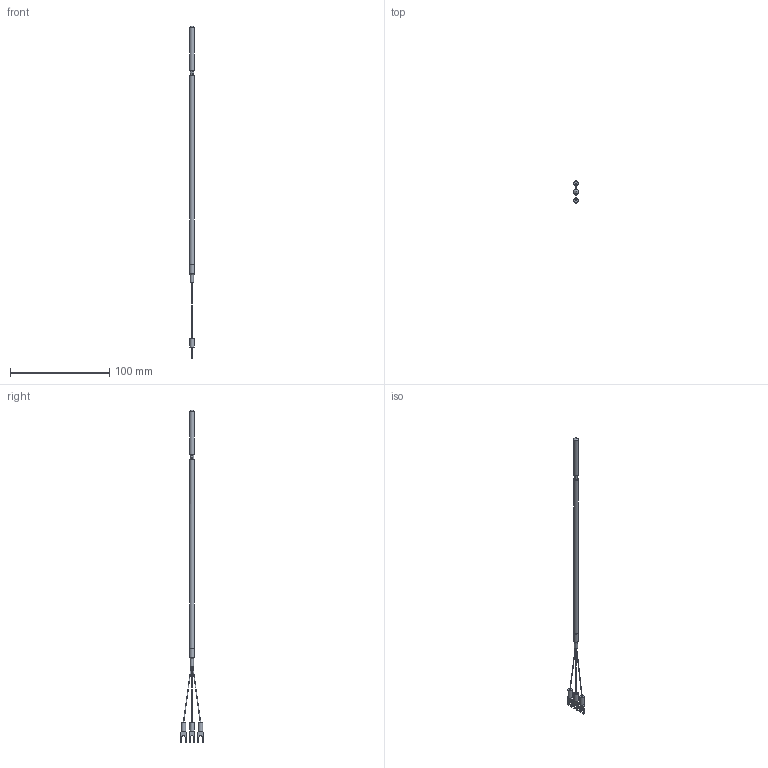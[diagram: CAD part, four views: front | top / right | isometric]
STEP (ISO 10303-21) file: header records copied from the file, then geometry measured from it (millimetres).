
FILE_DESCRIPTION (( 'STEP AP203' ), '1' );
FILE_NAME ('YIR102-2(1).STEP', '2024-08-29T01:01:23', ( '' ), ( '' ), 'SwSTEP 2.0', 'SolidWorks 2021', '' );
FILE_SCHEMA (( 'CONFIG_CONTROL_DESIGN' ));
Length unit declared in the file: millimetre
Products named in the file (1): YIR102-2(1)
Bounding box: 5 x 22.96 x 334.72 mm (x, y, z)
Volume: 5176.2 mm3; surface area: 4981.8 mm2
Topology: 1 solids, 1 shells, 86 faces, 206 edges, 132 vertices
Faces by surface type: plane 51, cylinder 29, cone 4, bspline 2
Full cylindrical faces by diameter (mm): 0.5 x1, 3.16 x1, 4.5 x3, 4.8 x1, 5 x2
Entity records: 2489 total; most frequent: CARTESIAN_POINT 431, DIRECTION 428, ORIENTED_EDGE 378, EDGE_CURVE 189, AXIS2_PLACEMENT_3D 154, VERTEX_POINT 129, LINE 120, VECTOR 120
